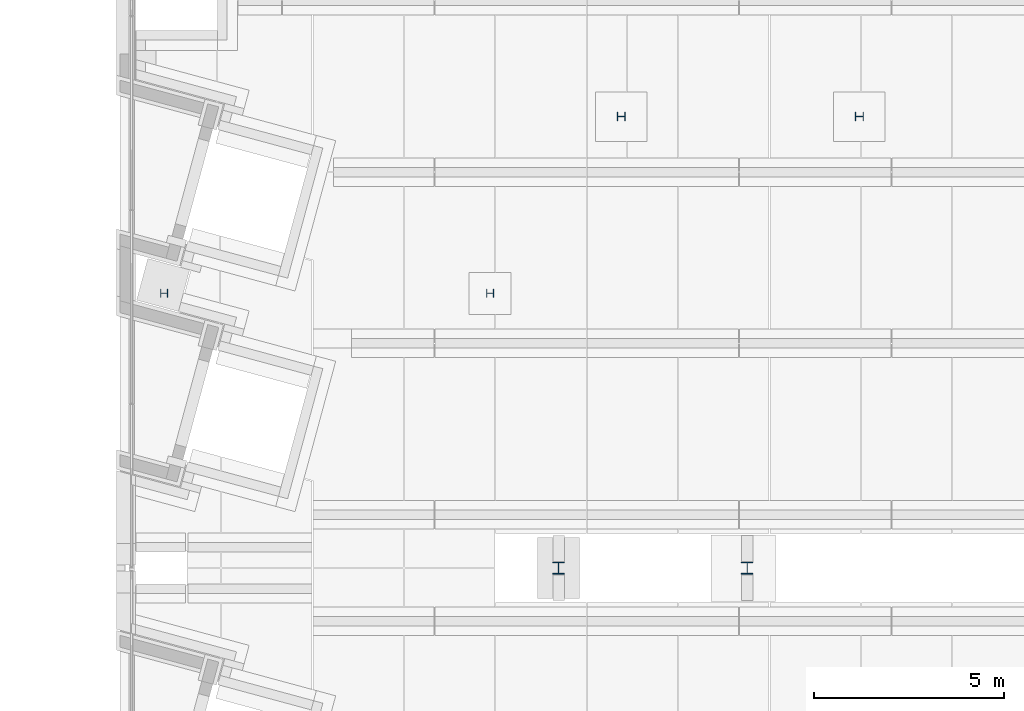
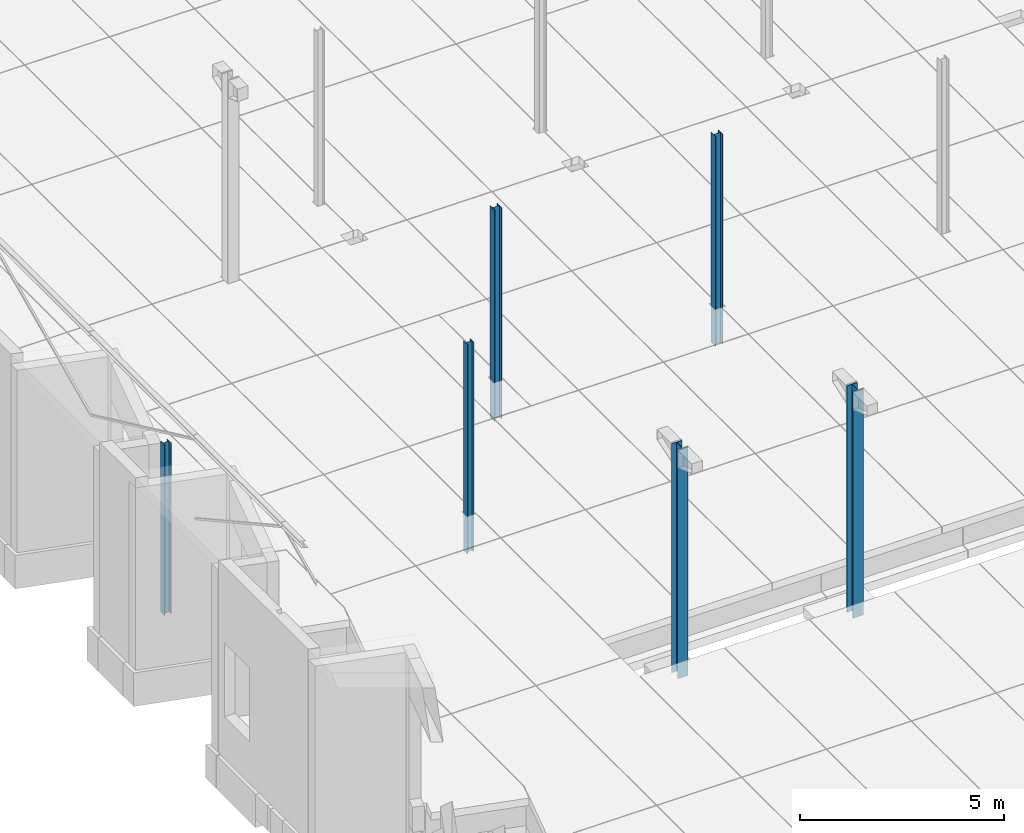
# One storey, part 25 of 59: 6 columns.
"""IFC2X3 building model written with IfcOpenShell, lengths in metres."""

import ifcopenshell
import ifcopenshell.guid

model = None  # the IFC model being written
_history = None  # IfcOwnerHistory: only IFC2X3 demands one
_inside = {}  # id of a spatial element -> (the spatial element, [elements in it])
_under = {}  # id of a project, library or spatial element -> (it, [spatial elements below it])
_declared = {}  # id of a project -> (the project, [libraries it declares])
_typed = {}  # id of a type object -> (the type object, [elements of that type])
_made_of = {}  # id of a material, layer set ... -> (it, [elements and type objects made of it])


def new_model(schema):
    """Start an empty IFC model of exactly this schema.

    Asked for "IFC4X3", IfcOpenShell would pick the latest addendum, in which some entities
    have other attributes; the version numbers below select the first issue.
    IFC2X3 requires an IfcOwnerHistory on every rooted entity: one is made here for all.
    """
    global model, _history
    if schema == "IFC4X3":
        model = ifcopenshell.file(schema_version=(4, 3, 0, 0))
    else:
        model = ifcopenshell.file(schema=schema)
    _inside.clear()
    _under.clear()
    _declared.clear()
    _typed.clear()
    _made_of.clear()
    _history = None
    if model.schema == "IFC2X3":
        org = make("IfcOrganization", Name="unknown")
        user = make(
            "IfcPersonAndOrganization",
            ThePerson=make("IfcPerson", FamilyName="unknown"),
            TheOrganization=org,
        )
        app = make(
            "IfcApplication",
            ApplicationDeveloper=org,
            Version="unknown",
            ApplicationFullName="unknown",
            ApplicationIdentifier="unknown",
        )
        _history = make(
            "IfcOwnerHistory",
            OwningUser=user,
            OwningApplication=app,
            ChangeAction="ADDED",
            CreationDate=0,
        )
    return model


def make(cls, **values):
    """One entity of the class cls with the attributes given. An attribute that is None is left unset."""
    return model.create_entity(
        cls, **{name: value for name, value in values.items() if value is not None}
    )


def entity(cls, *values):
    """Any entity or typed value of the class cls, its attributes in the order of the schema. None: left unset."""
    e = model.create_entity(cls)
    for i, value in enumerate(values):
        if value is not None:
            e[i] = value
    return e


def rooted(cls, **values):
    """An entity with a GlobalId (a new one), such as an element, a storey or a relation."""
    return make(cls, GlobalId=ifcopenshell.guid.new(), OwnerHistory=_history, **values)


def si_unit(unit_type, name, prefix=None):
    """IfcSIUnit, for example si_unit("LENGTHUNIT", "METRE", prefix="MILLI")."""
    return make("IfcSIUnit", UnitType=unit_type, Prefix=prefix, Name=name)


def converted_unit(unit_type, name, factor, base, dimensions=None, offset=None):
    """IfcConversionBasedUnit, such as the inch: factor (a typed value) times the base unit."""
    return make(
        "IfcConversionBasedUnit"
        if offset is None
        else "IfcConversionBasedUnitWithOffset",
        ConversionOffset=offset,
        Dimensions=None
        if dimensions is None
        else entity("IfcDimensionalExponents", *dimensions),
        UnitType=unit_type,
        Name=name,
        ConversionFactor=make(
            "IfcMeasureWithUnit", ValueComponent=factor, UnitComponent=base
        ),
    )


def derived_unit(unit_type, elements):
    """IfcDerivedUnit: a product of units, each with its exponent."""
    return make(
        "IfcDerivedUnit",
        Elements=[
            make("IfcDerivedUnitElement", Unit=unit, Exponent=power)
            for unit, power in elements
        ],
        UnitType=unit_type,
    )


def assignment(units):
    """IfcUnitAssignment: the units of a project."""
    return None if units is None else make("IfcUnitAssignment", Units=units)


def point(xyz):
    """IfcCartesianPoint."""
    return None if xyz is None else make("IfcCartesianPoint", Coordinates=xyz)


def direction(xyz):
    """IfcDirection."""
    return None if xyz is None else make("IfcDirection", DirectionRatios=xyz)


def frame(location, z_axis=None, x_axis=None):
    """IfcAxis2Placement3D, a coordinate frame: its origin and axes. An axis left out is left unset."""
    return make(
        "IfcAxis2Placement3D",
        Location=point(location),
        Axis=direction(z_axis),
        RefDirection=direction(x_axis),
    )


def origin():
    """The frame at (0, 0, 0) with its axes left unset."""
    return frame((0.0, 0.0, 0.0))


def origin_with_axes():
    """The frame at (0, 0, 0) with the z axis (0, 0, 1) and the x axis (1, 0, 0) written out."""
    return frame((0.0, 0.0, 0.0), z_axis=(0.0, 0.0, 1.0), x_axis=(1.0, 0.0, 0.0))


def place(relative_to, where):
    """IfcLocalPlacement: puts the frame where relative to a parent placement (None: the world)."""
    return make(
        "IfcLocalPlacement", PlacementRelTo=relative_to, RelativePlacement=where
    )


def context(
    kind, dimensions, precision=None, world=None, true_north=None, identifier=None
):
    """IfcGeometricRepresentationContext, for example the 3D "Model" context."""
    return make(
        "IfcGeometricRepresentationContext",
        ContextIdentifier=identifier,
        ContextType=kind,
        CoordinateSpaceDimension=dimensions,
        Precision=precision,
        WorldCoordinateSystem=world,
        TrueNorth=true_north,
    )


def subcontext(parent, identifier, kind, view, scale=None):
    """IfcGeometricRepresentationSubContext, for example "Body" below "Model"."""
    return make(
        "IfcGeometricRepresentationSubContext",
        ContextIdentifier=identifier,
        ContextType=kind,
        ParentContext=parent,
        TargetScale=scale,
        TargetView=view,
    )


def project(units=None, contexts=None):
    """IfcProject with its units and contexts."""
    return rooted(
        "IfcProject",
        Name="project",
        RepresentationContexts=contexts,
        UnitsInContext=assignment(units),
    )


def spatial(cls, under=None, at=None, **own):
    """A site, building, storey or space (cls), placed at a placement, below another one or the project."""
    s = rooted(cls, ObjectPlacement=at, **own)
    if under is not None:
        _under.setdefault(under.id(), (under, []))[1].append(s)
    return s


def polyline(points):
    """IfcPolyline through the points."""
    return make("IfcPolyline", Points=[point(p) for p in points])


def outline(outer, holes=None, kind="AREA"):
    """IfcArbitraryClosedProfileDef: a profile drawn as a closed curve; with holes, ...WithVoids."""
    if holes is None:
        return make("IfcArbitraryClosedProfileDef", ProfileType=kind, OuterCurve=outer)
    return make(
        "IfcArbitraryProfileDefWithVoids",
        ProfileType=kind,
        OuterCurve=outer,
        InnerCurves=holes,
    )


def extrude(swept, where, along, depth):
    """IfcExtrudedAreaSolid: the profile swept, set in the frame where, extruded along a direction by depth."""
    return make(
        "IfcExtrudedAreaSolid",
        SweptArea=swept,
        Position=where,
        ExtrudedDirection=direction(along),
        Depth=depth,
    )


def shape(context_of_items, identifier, shape_type, items):
    """IfcShapeRepresentation: the items that make up one representation, for example the "Body"."""
    return make(
        "IfcShapeRepresentation",
        ContextOfItems=context_of_items,
        RepresentationIdentifier=identifier,
        RepresentationType=shape_type,
        Items=items,
    )


def material(Name=None, Category=None):
    """IfcMaterial."""
    return make("IfcMaterial", Name=Name, Category=Category)


def made_of(thing, what):
    """Note that an element or type object is made of a material, layer set ...; save() writes the relation."""
    if what is not None:
        _made_of.setdefault(what.id(), (what, []))[1].append(thing)
    return thing


def element(
    cls,
    number,
    at=None,
    inside=None,
    cuts=None,
    type_object=None,
    material=None,
    context=None,
    identifier="Body",
    shape_type=None,
    held_by="IfcProductDefinitionShape",
    body=None,
    shapes=None,
    **own,
):
    """One element of the class cls, such as IfcWall. Its Tag is "e" and its number.

    at: its placement. inside: the storey or other place that contains it. cuts: it is an
    opening in that element (IfcRelVoidsElement). A single representation is given by context,
    identifier, shape_type and body (its items); several are given by shapes. held_by: the class
    of the entity that holds the representations. save() writes the other relations.
    """
    e = rooted(cls, Tag="e%d" % number, ObjectPlacement=at, **own)
    if body is not None:
        shapes = [shape(context, identifier, shape_type, body)]
    if shapes is not None:
        e.Representation = make(held_by, Representations=shapes)
    if inside is not None:
        _inside.setdefault(inside.id(), (inside, []))[1].append(e)
    if cuts is not None:
        rooted(
            "IfcRelVoidsElement", RelatingBuildingElement=cuts, RelatedOpeningElement=e
        )
    if type_object is not None:
        _typed.setdefault(type_object.id(), (type_object, []))[1].append(e)
    return made_of(e, material)


def aggregate(whole, parts):
    """IfcRelAggregates: a whole, such as a stair, and the parts it consists of."""
    return rooted("IfcRelAggregates", RelatingObject=whole, RelatedObjects=parts)


def save(model, path):
    """Write the relations noted so far, then the file.

    IfcRelAggregates (storeys below a building ...), IfcRelContainedInSpatialStructure (elements
    in a storey), IfcRelDefinesByType, IfcRelAssociatesMaterial and IfcRelDeclares: one each for
    every whole, place, type object, material and project.
    """
    for whole, parts in _under.values():
        aggregate(whole, parts)
    for where, things in _inside.values():
        rooted(
            "IfcRelContainedInSpatialStructure",
            RelatedElements=things,
            RelatingStructure=where,
        )
    for kind, things in _typed.values():
        rooted("IfcRelDefinesByType", RelatedObjects=things, RelatingType=kind)
    for what, things in _made_of.values():
        rooted("IfcRelAssociatesMaterial", RelatedObjects=things, RelatingMaterial=what)
    for by, libraries in _declared.values():
        rooted("IfcRelDeclares", RelatingContext=by, RelatedDefinitions=libraries)
    model.write(path)


model = new_model("IFC2X3")

# Units and contexts
model_context = context("Model", 3, precision=1e-05, world=origin())
body_context = subcontext(model_context, "Body", "Model", "MODEL_VIEW")
ifc_project = project(units=[si_unit("LENGTHUNIT", "METRE"), si_unit("AREAUNIT", "SQUARE_METRE"), si_unit("VOLUMEUNIT", "CUBIC_METRE"), si_unit("MASSUNIT", "GRAM", prefix="KILO"), converted_unit("PLANEANGLEUNIT", "DEGREE", entity("IfcPlaneAngleMeasure", 0.0174532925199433), si_unit("PLANEANGLEUNIT", "RADIAN"), dimensions=[0, 0, 0, 0, 0, 0, 0]), derived_unit("THERMALTRANSMITTANCEUNIT", [(si_unit("POWERUNIT", "WATT"), 1), (si_unit("THERMODYNAMICTEMPERATUREUNIT", "KELVIN"), -1), (si_unit("LENGTHUNIT", "METRE"), -2)]), derived_unit("VOLUMETRICFLOWRATEUNIT", [(si_unit("LENGTHUNIT", "METRE"), 3), (converted_unit("TIMEUNIT", "hour", entity("IfcTimeMeasure", 3600.0), si_unit("TIMEUNIT", "SECOND"), dimensions=[0, 0, 1, 0, 0, 0, 0]), -1), (si_unit("LENGTHUNIT", "METRE"), -1)])], contexts=[model_context])

# Site, building, storey
site_placement = place(None, origin())
site = spatial("IfcSite", under=ifc_project, at=site_placement, Name="TWP_Speiseverteilzentrum SBW VZ II", CompositionType="ELEMENT")
building_placement = place(site_placement, origin())
building = spatial("IfcBuilding", under=site, at=building_placement, Name="Speiseverteilzentrum SBW VZ II", CompositionType="ELEMENT")
storey_placement = place(building_placement, frame((0.0, 0.0, 1.7307)))
storey = spatial("IfcBuildingStorey", under=building, at=storey_placement, Name="EG_Produktion_FFB", CompositionType="ELEMENT", Elevation=1.7307)

# Columns
ifc_material_1 = material(Name="S235")
column_1_placement = place(storey_placement, frame((18.9599118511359, 58.7175367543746, -1.4)))
element("IfcColumn", 1, at=column_1_placement, inside=storey, material=ifc_material_1, Name="Stahlstütze", context=body_context, shape_type="SweptSolid", body=[
    extrude(outline(polyline([(0.19, 0.0), (0.19, 0.2), (0.18, 0.2), (0.18, 0.10325), (0.01, 0.10325), (0.01, 0.2), (0.0, 0.2), (0.0, 0.0), (0.01, 0.0), (0.01, 0.09675), (0.18, 0.09675), (0.18, 0.0), (0.19, 0.0)])), origin_with_axes(), (0.0, 0.0, 1.0), 6.26),
])
ifc_material_2 = material(Name="S235")
column_2_placement = place(storey_placement, frame((22.395, 63.3474932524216, -1.45)))
element("IfcColumn", 2, at=column_2_placement, inside=storey, material=ifc_material_2, Name="Stahlstütze", context=body_context, shape_type="SweptSolid", body=[
    extrude(outline(polyline([(0.21, 0.0), (0.21, 0.22), (0.199, 0.22), (0.199, 0.1135), (0.011, 0.1135), (0.011, 0.22), (0.0, 0.22), (0.0, 0.0), (0.011, 0.0), (0.011, 0.1065), (0.199, 0.1065), (0.199, 0.0), (0.21, 0.0)])), origin_with_axes(), (0.0, 0.0, 1.0), 6.33),
])
ifc_material_3 = material(Name="S235")
column_3_placement = place(storey_placement, frame((28.645, 63.3474932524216, -1.4)))
element("IfcColumn", 3, at=column_3_placement, inside=storey, material=ifc_material_3, Name="Stahlstütze", context=body_context, shape_type="SweptSolid", body=[
    extrude(outline(polyline([(0.21, 0.0), (0.21, 0.22), (0.199, 0.22), (0.199, 0.1135), (0.011, 0.1135), (0.011, 0.22), (0.0, 0.22), (0.0, 0.0), (0.011, 0.0), (0.011, 0.1065), (0.199, 0.1065), (0.199, 0.0), (0.21, 0.0)])), origin_with_axes(), (0.0, 0.0, 1.0), 6.28),
])
ifc_material_4 = material(Name="S235")
column_4_placement = place(storey_placement, frame((10.3999999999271, 58.7175367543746, -0.25)))
element("IfcColumn", 4, at=column_4_placement, inside=storey, material=ifc_material_4, Name="Stahlstütze", context=body_context, shape_type="SweptSolid", body=[
    extrude(outline(polyline([(0.19, 0.0), (0.19, 0.2), (0.18, 0.2), (0.18, 0.10325), (0.01, 0.10325), (0.01, 0.2), (0.0, 0.2), (0.0, 0.0), (0.01, 0.0), (0.01, 0.09675), (0.18, 0.09675), (0.18, 0.0), (0.19, 0.0)])), origin_with_axes(), (0.0, 0.0, 1.0), 5.11),
])
ifc_material_5 = material(Name="S235")
column_5_placement = place(storey_placement, frame((20.7000000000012, 51.4451031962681, -1.32)))
element("IfcColumn", 5, at=column_5_placement, inside=storey, material=ifc_material_5, Name="Stahlstütze", context=body_context, shape_type="SweptSolid", body=[
    extrude(outline(polyline([(0.0, 0.0), (0.3, 0.0), (0.3, 0.0155), (0.1545, 0.0155), (0.1545, 0.2945), (0.3, 0.2945), (0.3, 0.31), (0.0, 0.31), (0.0, 0.2945), (0.1455, 0.2945), (0.1455, 0.0155), (0.0, 0.0155), (0.0, 0.0)])), origin_with_axes(), (0.0, 0.0, 1.0), 6.8393),
])
ifc_material_6 = material(Name="S235")
column_6_placement = place(storey_placement, frame((25.6525522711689, 51.4451031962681, -1.25)))
element("IfcColumn", 6, at=column_6_placement, inside=storey, material=ifc_material_6, Name="Stahlstütze", context=body_context, shape_type="SweptSolid", body=[
    extrude(outline(polyline([(0.0, 0.0), (0.3, 0.0), (0.3, 0.0155), (0.1545, 0.0155), (0.1545, 0.2945), (0.3, 0.2945), (0.3, 0.31), (0.0, 0.31), (0.0, 0.2945), (0.1455, 0.2945), (0.1455, 0.0155), (0.0, 0.0155), (0.0, 0.0)])), origin_with_axes(), (0.0, 0.0, 1.0), 6.7693),
])

save(model, "model.ifc")
